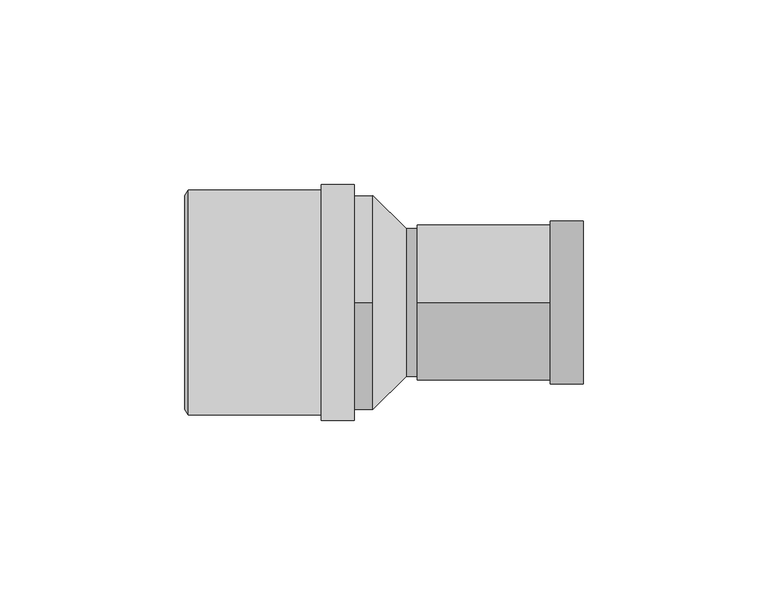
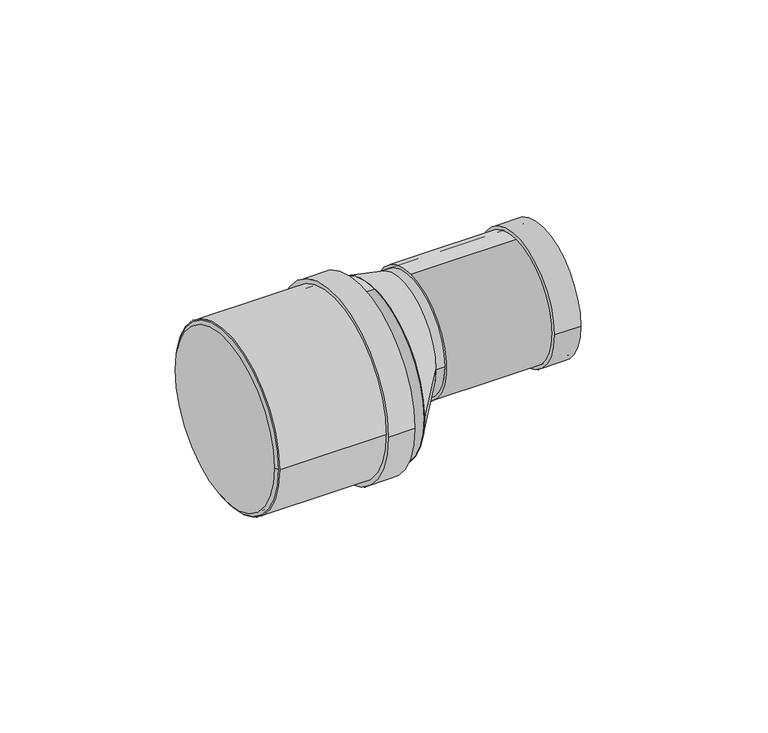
"""IFC4 building model written with IfcOpenShell, lengths in millimetres: pipe fitting geometry, Superdrain SK Reduction to HT : Superdrain SK Reduction to HT."""

from ifc_helpers import new_model, si_unit, point, frame, frame_2d, origin, origin_2d, place, context, project, spatial, polyline, circle_curve, trimmed, segment, composite_curve, outline, extrude, source, transform, mapped, element, save
from ifc_brep_helpers import plane_surface, revolved_surface, spline_surface, advanced_brep


def pipe_fitting_47ed204c(model_context):
    return source(origin(), model_context, "Body", "SolidModel", [
        extrude(outline(composite_curve([segment(trimmed(circle_curve(frame_2d((0.0, 0.1450234)), 30.45), [point((30.45, 0.1450234))], [point((-30.45, 0.1450234))], False, "CARTESIAN"), True, "CONTINUOUS"), segment(trimmed(circle_curve(frame_2d((0.0, 0.1450234)), 30.45), [point((-30.45, 0.1450234))], [point((30.45, 0.1450234))], False, "CARTESIAN"), True, "CONTINUOUS")], self_intersect=False), holes=[composite_curve([segment(trimmed(circle_curve(frame_2d((0.0, 0.1450234)), 29.0), [point((29.0, 0.1450234))], [point((-29.0, 0.1450234))], True, "CARTESIAN"), True, "CONTINUOUS"), segment(trimmed(circle_curve(frame_2d((0.0, 0.1450234)), 29.0), [point((-29.0, 0.1450234))], [point((29.0, 0.1450234))], True, "CARTESIAN"), True, "CONTINUOUS")], self_intersect=False)]), frame((-50.0, 0.0, 0.0), z_axis=(1.0, 0.0, 0.0), x_axis=(0.0, 1.0, 0.0)), (0.0, 0.0, 1.0), 45.0),
        extrude(outline(composite_curve([segment(trimmed(circle_curve(frame_2d((0.0, 0.1450234)), 31.9725), [point((31.9725, 0.1450234))], [point((-31.9725, 0.1450234))], False, "CARTESIAN"), True, "CONTINUOUS"), segment(trimmed(circle_curve(frame_2d((0.0, 0.1450234)), 31.9725), [point((-31.9725, 0.1450234))], [point((31.9725, 0.1450234))], False, "CARTESIAN"), True, "CONTINUOUS")], self_intersect=False), holes=[composite_curve([segment(trimmed(circle_curve(frame_2d((0.0, 0.1450234)), 29.0), [point((29.0, 0.1450234))], [point((-29.0, 0.1450234))], True, "CARTESIAN"), True, "CONTINUOUS"), segment(trimmed(circle_curve(frame_2d((0.0, 0.1450234)), 29.0), [point((-29.0, 0.1450234))], [point((29.0, 0.1450234))], True, "CARTESIAN"), True, "CONTINUOUS")], self_intersect=False)]), frame((-14.0, 0.0, 0.0), z_axis=(1.0, 0.0, 0.0), x_axis=(0.0, 1.0, 0.0)), (0.0, 0.0, 1.0), 9.0),
        advanced_brep(
        [(-51.0, 29.0, 0.1450234), (-51.0, -29.0, 0.1450234), (-50.0, 30.45, 0.1450234), (-50.0, -30.45, 0.1450234)],
        [
            (0, 1, circle_curve(frame((-51.0, 0.0, 0.1450234), z_axis=(-1.0, 0.0, 0.0), x_axis=(0.0, 1.0, 0.0)), 29.0)),
            (1, 0, circle_curve(frame((-51.0, 0.0, 0.1450234), z_axis=(-1.0, 0.0, 0.0), x_axis=(0.0, -1.0, 0.0)), 29.0)),
            (2, 3, circle_curve(frame((-50.0, 0.0, 0.1450234), z_axis=(1.0, 0.0, 0.0), x_axis=(0.0, -1.0, 0.0)), 30.45)),
            (3, 2, circle_curve(frame((-50.0, 0.0, 0.1450234), z_axis=(1.0, 0.0, 0.0), x_axis=(0.0, 1.0, 0.0)), 30.45)),
            (3, 1),
            (0, 2),
        ],
        [
            plane_surface(frame((-51.0, 0.0, 0.1450234), z_axis=(-1.0, 0.0, 0.0), x_axis=(0.0, 0.0, -1.0))),
            plane_surface(frame((-50.0, 0.0, 0.1450234), z_axis=(1.0, 0.0, 0.0), x_axis=(0.0, 0.0, -1.0))),
            revolved_surface(polyline([(-51.0, 28.999999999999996, 0.1450234), (-50.0, 30.45, 0.1450234)]), (-71.0, 0.0, 0.1450234), (1.0, 0.0, 0.0)),
            revolved_surface(polyline([(-51.0, -28.999999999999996, 0.1450234), (-50.0, -30.45, 0.1450234)]), (-71.0, 0.0, 0.1450234), (1.0, 0.0, 0.0)),
        ],
        [
            (0, [[1, 2]]),
            (1, [[3, 4]]),
            (2, [[-4, 5, -1, 6]]),
            (3, [[-3, -6, -2, -5]]),
        ],
    ),
        advanced_brep(
        [(9.0, -20.0, 9.0), (9.0, 20.0, 9.0), (0.0, -29.0, 0.0), (0.0, 29.0, 0.0)],
        [
            (0, 1, circle_curve(frame((9.0, 0.0, 9.0), z_axis=(1.0, 0.0, 0.0), x_axis=(0.0, 1.0, 0.0)), 20.0)),
            (1, 0, circle_curve(frame((9.0, 0.0, 9.0), z_axis=(1.0, 0.0, 0.0), x_axis=(0.0, 1.0, 0.0)), 20.0)),
            (2, 3, circle_curve(frame((0.0, 0.0, 0.0), z_axis=(-1.0, 0.0, 0.0), x_axis=(0.0, 1.0, 0.0)), 29.0)),
            (3, 2, circle_curve(frame((0.0, 0.0, 0.0), z_axis=(-1.0, 0.0, 0.0), x_axis=(0.0, 1.0, 0.0)), 29.0)),
            (3, 1),
            (0, 2),
        ],
        [
            plane_surface(frame((9.0, 0.0, 9.0), z_axis=(1.0, 0.0, 0.0), x_axis=(0.0, 0.0, -1.0))),
            plane_surface(frame((0.0, 0.0, 0.0), z_axis=(-1.0, 0.0, 0.0), x_axis=(0.0, 0.0, -1.0))),
            spline_surface(2, 1, [[(0.0, -29.0, 0.0), (9.0, -20.0, 9.0)], [(0.0, -29.0, -29.0), (9.0, -20.0, -11.0)], [(0.0, 0.0, -29.0), (9.0, 0.0, -11.0)], [(0.0, 29.0, -29.0), (9.0, 20.0, -11.0)], [(0.0, 29.0, 0.0), (9.0, 20.0, 9.0)]], [3, 2, 3], [2, 2], [0.0, 1.0, 2.0], [0.0, 1.0], weights=[[1.0, 1.0], [0.7071067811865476, 0.7071067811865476], [1.0, 1.0], [0.7071067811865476, 0.7071067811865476], [1.0, 1.0]]),
            spline_surface(2, 1, [[(0.0, 29.0, 0.0), (9.0, 20.0, 9.0)], [(0.0, 29.0, 29.0), (9.0, 20.0, 29.0)], [(0.0, 0.0, 29.0), (9.0, 0.0, 29.0)], [(0.0, -29.0, 29.0), (9.0, -20.0, 29.0)], [(0.0, -29.0, 0.0), (9.0, -20.0, 9.0)]], [3, 2, 3], [2, 2], [0.0, 1.0, 2.0], [0.0, 1.0], weights=[[1.0, 1.0], [0.7071067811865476, 0.7071067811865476], [1.0, 1.0], [0.7071067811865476, 0.7071067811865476], [1.0, 1.0]]),
        ],
        [
            (0, [[1, 2]]),
            (1, [[3, 4]]),
            (2, [[-4, 5, -1, 6]]),
            (3, [[-3, -6, -2, -5]]),
        ],
    ),
        extrude(outline(composite_curve([segment(trimmed(circle_curve(frame_2d((0.0, 9.0)), 20.0), [point((-20.0, 9.0))], [point((20.0, 9.0))], False, "CARTESIAN"), True, "CONTINUOUS"), segment(trimmed(circle_curve(frame_2d((0.0, 9.0)), 20.0), [point((20.0, 9.0))], [point((-20.0, 9.0))], False, "CARTESIAN"), True, "CONTINUOUS")], self_intersect=False)), frame((9.0, 0.0, 0.0), z_axis=(1.0, 0.0, 0.0), x_axis=(0.0, 1.0, 0.0)), (0.0, 0.0, 1.0), 3.0),
        extrude(outline(composite_curve([segment(trimmed(circle_curve(frame_2d((0.0, 9.0)), 22.05), [point((-22.05, 9.0))], [point((22.05, 9.0))], False, "CARTESIAN"), True, "CONTINUOUS"), segment(trimmed(circle_curve(frame_2d((0.0, 9.0)), 22.05), [point((22.05, 9.0))], [point((-22.05, 9.0))], False, "CARTESIAN"), True, "CONTINUOUS")], self_intersect=False), holes=[composite_curve([segment(trimmed(circle_curve(frame_2d((0.0, 9.0)), 20.0), [point((20.0, 9.0))], [point((-20.0, 9.0))], True, "CARTESIAN"), True, "CONTINUOUS"), segment(trimmed(circle_curve(frame_2d((0.0, 9.0)), 20.0), [point((-20.0, 9.0))], [point((20.0, 9.0))], True, "CARTESIAN"), True, "CONTINUOUS")], self_intersect=False)]), frame((48.0, 0.0, 0.0), z_axis=(1.0, 0.0, 0.0), x_axis=(0.0, 1.0, 0.0)), (0.0, 0.0, 1.0), 9.0),
        extrude(outline(composite_curve([segment(trimmed(circle_curve(frame_2d((0.0, 9.0)), 21.0), [point((0.0, 30.0))], [point((0.0, -12.0))], False, "CARTESIAN"), True, "CONTINUOUS"), segment(trimmed(circle_curve(frame_2d((0.0, 9.0)), 21.0), [point((0.0, -12.0))], [point((0.0, 30.0))], False, "CARTESIAN"), True, "CONTINUOUS")], self_intersect=False), holes=[composite_curve([segment(trimmed(circle_curve(frame_2d((0.0, 9.0)), 20.0), [point((20.0, 9.0))], [point((-20.0, 9.0))], True, "CARTESIAN"), True, "CONTINUOUS"), segment(trimmed(circle_curve(frame_2d((0.0, 9.0)), 20.0), [point((-20.0, 9.0))], [point((20.0, 9.0))], True, "CARTESIAN"), True, "CONTINUOUS")], self_intersect=False)]), frame((12.0, 0.0, 0.0), z_axis=(1.0, 0.0, 0.0), x_axis=(0.0, 1.0, 0.0)), (0.0, 0.0, 1.0), 45.0),
        extrude(outline(composite_curve([segment(trimmed(circle_curve(origin_2d(), 29.0), [point((0.0, 29.0))], [point((0.0, -29.0))], False, "CARTESIAN"), True, "CONTINUOUS"), segment(trimmed(circle_curve(origin_2d(), 29.0), [point((0.0, -29.0))], [point((0.0, 29.0))], False, "CARTESIAN"), True, "CONTINUOUS")], self_intersect=False)), frame((-50.0, 0.0, 0.0), z_axis=(1.0, 0.0, 0.0), x_axis=(0.0, 1.0, 0.0)), (0.0, 0.0, 1.0), 50.0),
    ])


if __name__ == "__main__":
    model = new_model("IFC4")
    model_context = context("Model", 3, world=origin())
    ifc_project = project(units=[si_unit("LENGTHUNIT", "METRE", prefix="MILLI")], contexts=[model_context])
    site = spatial("IfcSite", under=ifc_project)
    building = spatial("IfcBuilding", under=site)
    placement = place(None, origin())
    pipe_fitting_shape = pipe_fitting_47ed204c(model_context)
    element("IfcPipeFitting", 1, ObjectType="Superdrain SK Reduction to HT : Superdrain SK Reduction to HT", at=placement, inside=building, context=model_context, shape_type="MappedRepresentation", body=[
        mapped(pipe_fitting_shape, transform((0.0, 0.0, 0.0), x_axis=(1.0, 0.0, 0.0), y_axis=(0.0, 1.0, 0.0), z_axis=(0.0, 0.0, 1.0))),
    ])
    save(model, "model.ifc")
